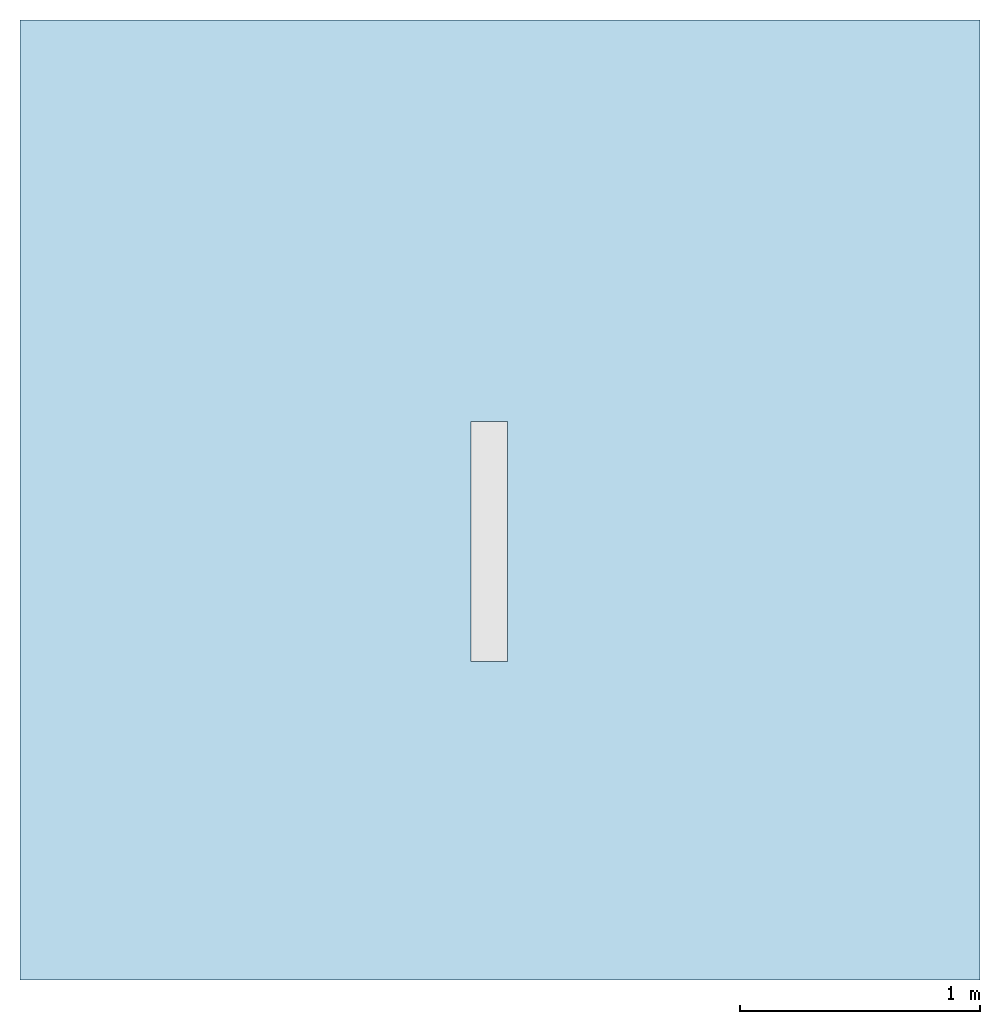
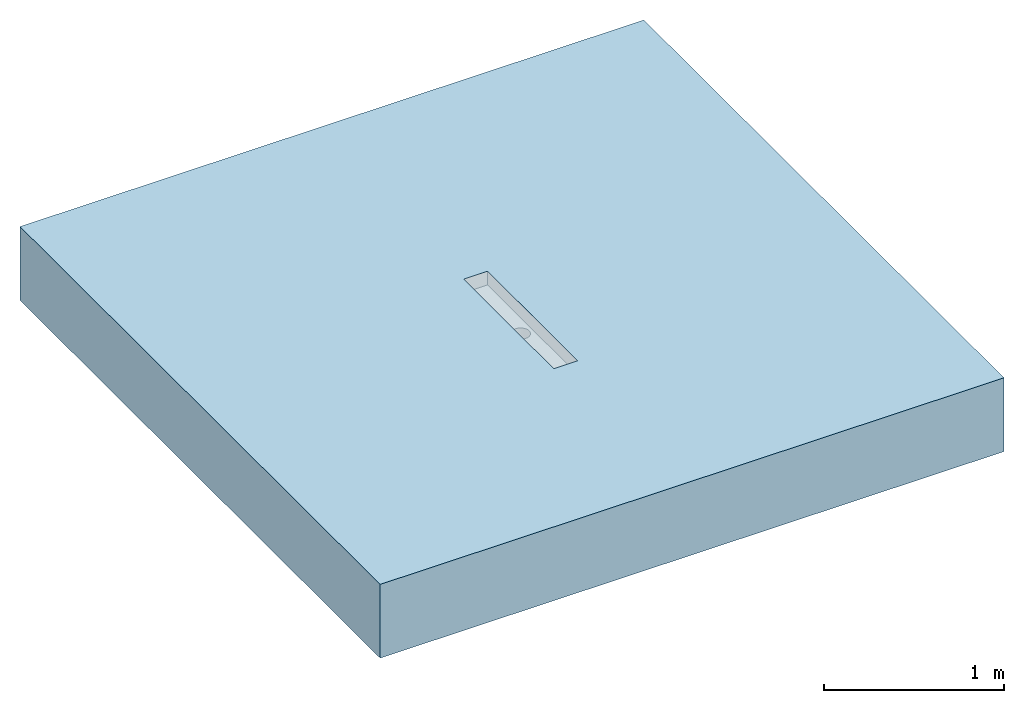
# One storey, incomplete: 1 slab, 1 opening.
"""IFC2X3 building model written with IfcOpenShell, lengths in millimetres."""

import ifcopenshell
import ifcopenshell.guid

model = None  # the IFC model being written
_history = None  # IfcOwnerHistory: only IFC2X3 demands one
_inside = {}  # id of a spatial element -> (the spatial element, [elements in it])
_under = {}  # id of a project, library or spatial element -> (it, [spatial elements below it])
_declared = {}  # id of a project -> (the project, [libraries it declares])
_typed = {}  # id of a type object -> (the type object, [elements of that type])
_made_of = {}  # id of a material, layer set ... -> (it, [elements and type objects made of it])


def new_model(schema):
    """Start an empty IFC model of exactly this schema.

    Asked for "IFC4X3", IfcOpenShell would pick the latest addendum, in which some entities
    have other attributes; the version numbers below select the first issue.
    IFC2X3 requires an IfcOwnerHistory on every rooted entity: one is made here for all.
    """
    global model, _history
    if schema == "IFC4X3":
        model = ifcopenshell.file(schema_version=(4, 3, 0, 0))
    else:
        model = ifcopenshell.file(schema=schema)
    _inside.clear()
    _under.clear()
    _declared.clear()
    _typed.clear()
    _made_of.clear()
    _history = None
    if model.schema == "IFC2X3":
        org = make("IfcOrganization", Name="unknown")
        user = make(
            "IfcPersonAndOrganization",
            ThePerson=make("IfcPerson", FamilyName="unknown"),
            TheOrganization=org,
        )
        app = make(
            "IfcApplication",
            ApplicationDeveloper=org,
            Version="unknown",
            ApplicationFullName="unknown",
            ApplicationIdentifier="unknown",
        )
        _history = make(
            "IfcOwnerHistory",
            OwningUser=user,
            OwningApplication=app,
            ChangeAction="ADDED",
            CreationDate=0,
        )
    return model


def make(cls, **values):
    """One entity of the class cls with the attributes given. An attribute that is None is left unset."""
    return model.create_entity(
        cls, **{name: value for name, value in values.items() if value is not None}
    )


def entity(cls, *values):
    """Any entity or typed value of the class cls, its attributes in the order of the schema. None: left unset."""
    e = model.create_entity(cls)
    for i, value in enumerate(values):
        if value is not None:
            e[i] = value
    return e


def rooted(cls, **values):
    """An entity with a GlobalId (a new one), such as an element, a storey or a relation."""
    return make(cls, GlobalId=ifcopenshell.guid.new(), OwnerHistory=_history, **values)


def si_unit(unit_type, name, prefix=None):
    """IfcSIUnit, for example si_unit("LENGTHUNIT", "METRE", prefix="MILLI")."""
    return make("IfcSIUnit", UnitType=unit_type, Prefix=prefix, Name=name)


def converted_unit(unit_type, name, factor, base, dimensions=None, offset=None):
    """IfcConversionBasedUnit, such as the inch: factor (a typed value) times the base unit."""
    return make(
        "IfcConversionBasedUnit"
        if offset is None
        else "IfcConversionBasedUnitWithOffset",
        ConversionOffset=offset,
        Dimensions=None
        if dimensions is None
        else entity("IfcDimensionalExponents", *dimensions),
        UnitType=unit_type,
        Name=name,
        ConversionFactor=make(
            "IfcMeasureWithUnit", ValueComponent=factor, UnitComponent=base
        ),
    )


def assignment(units):
    """IfcUnitAssignment: the units of a project."""
    return None if units is None else make("IfcUnitAssignment", Units=units)


def point(xyz):
    """IfcCartesianPoint."""
    return None if xyz is None else make("IfcCartesianPoint", Coordinates=xyz)


def direction(xyz):
    """IfcDirection."""
    return None if xyz is None else make("IfcDirection", DirectionRatios=xyz)


def frame(location, z_axis=None, x_axis=None):
    """IfcAxis2Placement3D, a coordinate frame: its origin and axes. An axis left out is left unset."""
    return make(
        "IfcAxis2Placement3D",
        Location=point(location),
        Axis=direction(z_axis),
        RefDirection=direction(x_axis),
    )


def frame_2d(location, x_axis=None):
    """IfcAxis2Placement2D, a coordinate frame in the plane: its origin and x axis."""
    return make(
        "IfcAxis2Placement2D", Location=point(location), RefDirection=direction(x_axis)
    )


def origin():
    """The frame at (0, 0, 0) with its axes left unset."""
    return frame((0.0, 0.0, 0.0))


def place(relative_to, where):
    """IfcLocalPlacement: puts the frame where relative to a parent placement (None: the world)."""
    return make(
        "IfcLocalPlacement", PlacementRelTo=relative_to, RelativePlacement=where
    )


def context(
    kind, dimensions, precision=None, world=None, true_north=None, identifier=None
):
    """IfcGeometricRepresentationContext, for example the 3D "Model" context."""
    return make(
        "IfcGeometricRepresentationContext",
        ContextIdentifier=identifier,
        ContextType=kind,
        CoordinateSpaceDimension=dimensions,
        Precision=precision,
        WorldCoordinateSystem=world,
        TrueNorth=true_north,
    )


def subcontext(parent, identifier, kind, view, scale=None):
    """IfcGeometricRepresentationSubContext, for example "Body" below "Model"."""
    return make(
        "IfcGeometricRepresentationSubContext",
        ContextIdentifier=identifier,
        ContextType=kind,
        ParentContext=parent,
        TargetScale=scale,
        TargetView=view,
    )


def project(units=None, contexts=None):
    """IfcProject with its units and contexts."""
    return rooted(
        "IfcProject",
        Name="project",
        RepresentationContexts=contexts,
        UnitsInContext=assignment(units),
    )


def spatial(cls, under=None, at=None, **own):
    """A site, building, storey or space (cls), placed at a placement, below another one or the project."""
    s = rooted(cls, ObjectPlacement=at, **own)
    if under is not None:
        _under.setdefault(under.id(), (under, []))[1].append(s)
    return s


def profile(cls, at=None, kind="AREA", **sizes):
    """A parametric profile (cls). Its sizes go by their IFC names, for example OverallWidth=200.0."""
    return make(cls, ProfileType=kind, Position=at, **sizes)


def rectangle(**sizes):
    """IfcRectangleProfileDef."""
    return profile("IfcRectangleProfileDef", **sizes)


def extrude(swept, where, along, depth):
    """IfcExtrudedAreaSolid: the profile swept, set in the frame where, extruded along a direction by depth."""
    return make(
        "IfcExtrudedAreaSolid",
        SweptArea=swept,
        Position=where,
        ExtrudedDirection=direction(along),
        Depth=depth,
    )


def faces_of(points, faces, orient=None, outer=None):
    """IfcFace entities. A face is a list of loops; a loop is a list of indices into points, from 0.

    orient and outer hold one flag for each loop. By default every Orientation is true, the
    first loop of a face is its IfcFaceOuterBound and the others are IfcFaceBound.
    """
    made = []
    for i, loops in enumerate(faces):
        bounds = []
        for j, loop in enumerate(loops):
            is_outer = j == 0 if outer is None else outer[i][j]
            bounds.append(
                make(
                    "IfcFaceOuterBound" if is_outer else "IfcFaceBound",
                    Bound=make("IfcPolyLoop", Polygon=[points[k] for k in loop]),
                    Orientation=True if orient is None else orient[i][j],
                )
            )
        made.append(make("IfcFace", Bounds=bounds))
    return made


def faceted_brep(points, faces, orient=None, outer=None, voids=None):
    """IfcFacetedBrep: a solid bounded by flat faces; with voids (closed shells), ...WithVoids."""
    shared = [point(p) for p in points]
    hull = make("IfcClosedShell", CfsFaces=faces_of(shared, faces, orient, outer))
    if voids is None:
        return make("IfcFacetedBrep", Outer=hull)
    return make(
        "IfcFacetedBrepWithVoids",
        Outer=hull,
        Voids=[
            make(cls, CfsFaces=faces_of(shared, fs, o, b)) for cls, fs, o, b in voids
        ],
    )


def shape(context_of_items, identifier, shape_type, items):
    """IfcShapeRepresentation: the items that make up one representation, for example the "Body"."""
    return make(
        "IfcShapeRepresentation",
        ContextOfItems=context_of_items,
        RepresentationIdentifier=identifier,
        RepresentationType=shape_type,
        Items=items,
    )


def material(Name=None, Category=None):
    """IfcMaterial."""
    return make("IfcMaterial", Name=Name, Category=Category)


def layer(
    of_material, thickness, ventilated=None, Name=None, Category=None, Priority=None
):
    """IfcMaterialLayer: one layer of a wall or slab, of a material (None: an air gap)."""
    return make(
        "IfcMaterialLayer",
        Material=of_material,
        LayerThickness=thickness,
        IsVentilated=ventilated,
        Name=Name,
        Category=Category,
        Priority=Priority,
    )


def layer_set(layers, Name=None):
    """IfcMaterialLayerSet."""
    return make("IfcMaterialLayerSet", MaterialLayers=layers, LayerSetName=Name)


def layer_usage(for_layer_set, set_direction, sense, offset, extent=None):
    """IfcMaterialLayerSetUsage: how a layer set lies in its element."""
    return make(
        "IfcMaterialLayerSetUsage",
        ForLayerSet=for_layer_set,
        LayerSetDirection=set_direction,
        DirectionSense=sense,
        OffsetFromReferenceLine=offset,
        ReferenceExtent=extent,
    )


def made_of(thing, what):
    """Note that an element or type object is made of a material, layer set ...; save() writes the relation."""
    if what is not None:
        _made_of.setdefault(what.id(), (what, []))[1].append(thing)
    return thing


def element(
    cls,
    number,
    at=None,
    inside=None,
    cuts=None,
    type_object=None,
    material=None,
    context=None,
    identifier="Body",
    shape_type=None,
    held_by="IfcProductDefinitionShape",
    body=None,
    shapes=None,
    **own,
):
    """One element of the class cls, such as IfcWall. Its Tag is "e" and its number.

    at: its placement. inside: the storey or other place that contains it. cuts: it is an
    opening in that element (IfcRelVoidsElement). A single representation is given by context,
    identifier, shape_type and body (its items); several are given by shapes. held_by: the class
    of the entity that holds the representations. save() writes the other relations.
    """
    e = rooted(cls, Tag="e%d" % number, ObjectPlacement=at, **own)
    if body is not None:
        shapes = [shape(context, identifier, shape_type, body)]
    if shapes is not None:
        e.Representation = make(held_by, Representations=shapes)
    if inside is not None:
        _inside.setdefault(inside.id(), (inside, []))[1].append(e)
    if cuts is not None:
        rooted(
            "IfcRelVoidsElement", RelatingBuildingElement=cuts, RelatedOpeningElement=e
        )
    if type_object is not None:
        _typed.setdefault(type_object.id(), (type_object, []))[1].append(e)
    return made_of(e, material)


def aggregate(whole, parts):
    """IfcRelAggregates: a whole, such as a stair, and the parts it consists of."""
    return rooted("IfcRelAggregates", RelatingObject=whole, RelatedObjects=parts)


def save(model, path):
    """Write the relations noted so far, then the file.

    IfcRelAggregates (storeys below a building ...), IfcRelContainedInSpatialStructure (elements
    in a storey), IfcRelDefinesByType, IfcRelAssociatesMaterial and IfcRelDeclares: one each for
    every whole, place, type object, material and project.
    """
    for whole, parts in _under.values():
        aggregate(whole, parts)
    for where, things in _inside.values():
        rooted(
            "IfcRelContainedInSpatialStructure",
            RelatedElements=things,
            RelatingStructure=where,
        )
    for kind, things in _typed.values():
        rooted("IfcRelDefinesByType", RelatedObjects=things, RelatingType=kind)
    for what, things in _made_of.values():
        rooted("IfcRelAssociatesMaterial", RelatedObjects=things, RelatingMaterial=what)
    for by, libraries in _declared.values():
        rooted("IfcRelDeclares", RelatingContext=by, RelatedDefinitions=libraries)
    model.write(path)


model = new_model("IFC2X3")

# Units and contexts
model_context = context("Model", 3, precision=1e-06, world=origin(), true_north=direction((2.0, 6.12303176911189e-17, 1.0)))
context_of_model = context(None, 3, precision=1e-06, world=origin(), true_north=direction((2.0, 6.12303176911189e-17, 1.0)))
body_context = subcontext(model_context, "Body", "Model", "MODEL_VIEW")
ifc_project = project(units=[si_unit("LENGTHUNIT", "METRE", prefix="MILLI"), si_unit("AREAUNIT", "SQUARE_METRE", prefix="MILLI"), si_unit("VOLUMEUNIT", "CUBIC_METRE", prefix="MILLI"), converted_unit("PLANEANGLEUNIT", "DEGREE", entity("IfcRatioMeasure", 0.0174532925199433), si_unit("PLANEANGLEUNIT", "RADIAN"), dimensions=[0, 0, 0, 0, 0, 0, 0]), si_unit("TIMEUNIT", "SECOND")], contexts=[model_context, context_of_model])

# Site, building, storey
site_placement = place(None, origin())
site = spatial("IfcSite", under=ifc_project, at=site_placement, Name="Default", CompositionType="ELEMENT")
building_placement = place(site_placement, origin())
building = spatial("IfcBuilding", under=site, at=building_placement, CompositionType="ELEMENT")
storey_placement = place(building_placement, origin())
storey = spatial("IfcBuildingStorey", under=building, at=storey_placement, Name="Level 1", CompositionType="ELEMENT", Elevation=0.0)

# Slab, opening
ifc_material = material(Name="Concrete, Broom Finish")
ifc_layer = layer(ifc_material, 500.0)
ifc_layer_set = layer_set([ifc_layer], Name="Floor:Generic Floor - 500mm")
ifc_layer_usage = layer_usage(ifc_layer_set, "AXIS3", "POSITIVE", 0.0)
slab_placement = place(storey_placement, origin())
slab = element("IfcSlab", 1, at=slab_placement, inside=storey, material=ifc_layer_usage, Name="Floor:Generic Floor - 500mm", ObjectType="Floor:Generic Floor - 500mm", PredefinedType="FLOOR", context=body_context, shape_type="SweptSolid", body=[
    extrude(rectangle(XDim=4000.0, YDim=4000.0, at=frame_2d((0.0, 0.0), x_axis=(-1.0, 0.0))), frame((-419.114478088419, -735.273497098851, 0.0), z_axis=(0.0, 0.0, -1.0), x_axis=(-1.0, 0.0, 0.0)), (0.0, 0.0, 1.0), 500.0),
])
opening_placement = place(slab_placement, frame((-539.874048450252, -1407.80902846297, -196.999997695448)))
element("IfcOpeningElement", 2, at=opening_placement, cuts=slab, ObjectType="Recess", context=body_context, shape_type="Brep", body=[
    faceted_brep([(0.0, 0.0, 196.99999769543), (153.0, 0.0, 196.99999769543), (153.0, 0.0, 104.19999769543), (0.0, 0.0, 104.19999769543), (153.0, 1000.0, 196.99999769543), (0.0, 1000.0, 196.99999769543), (0.0, 1000.0, 104.19999769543), (153.0, 1000.0, 104.19999769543), (62.2649525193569, 446.8740795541, 104.19999769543), (49.0, 452.368602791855, 104.19999769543), (37.6091270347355, 461.109127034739, 104.19999769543), (76.4999999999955, 445.0, 104.19999769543), (23.3740795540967, 485.76495251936, 104.19999769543), (21.4999999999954, 500.0, 104.19999769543), (28.8686027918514, 472.499999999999, 104.19999769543), (90.7350474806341, 446.8740795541, 104.19999769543), (104.0, 452.368602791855, 104.19999769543), (115.390872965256, 461.109127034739, 104.19999769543), (129.625920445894, 485.76495251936, 104.19999769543), (124.13139720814, 472.499999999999, 104.19999769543), (131.499999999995, 500.0, 104.19999769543), (23.3740795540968, 514.235047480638, 104.19999769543), (28.8686027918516, 527.499999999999, 104.19999769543), (37.6091270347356, 538.890872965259, 104.19999769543), (62.2649525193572, 553.125920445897, 104.19999769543), (49.0, 547.631397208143, 104.19999769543), (76.4999999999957, 555.0, 104.19999769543), (124.13139720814, 527.499999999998, 104.19999769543), (129.625920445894, 514.235047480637, 104.19999769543), (90.7350474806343, 553.125920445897, 104.19999769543), (104.0, 547.631397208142, 104.19999769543), (115.390872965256, 538.890872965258, 104.19999769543), (49.0, 452.368602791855, 0.0), (62.2649525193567, 446.8740795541, 0.0), (76.4999999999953, 445.0, 0.0), (90.7350474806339, 446.8740795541, 0.0), (62.2649525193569, 553.125920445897, 0.0), (37.6091270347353, 461.109127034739, 0.0), (28.8686027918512, 472.499999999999, 0.0), (49.0, 547.631397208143, 0.0), (124.131397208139, 472.499999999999, 0.0), (124.13139720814, 527.499999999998, 0.0), (115.390872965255, 461.109127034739, 0.0), (104.0, 452.368602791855, 0.0), (131.499999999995, 500.0, 0.0), (129.625920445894, 514.235047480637, 0.0), (129.625920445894, 485.76495251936, 0.0), (23.3740795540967, 514.235047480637, 0.0), (23.3740795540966, 485.76495251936, 0.0), (28.8686027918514, 527.499999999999, 0.0), (37.6091270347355, 538.890872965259, 0.0), (104.0, 547.631397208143, 0.0), (115.390872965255, 538.890872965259, 0.0), (90.7350474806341, 553.125920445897, 0.0), (76.4999999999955, 555.0, 0.0), (21.4999999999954, 500.0, 0.0)], [[[0, 1, 2]], [[2, 3, 0]], [[4, 5, 6]], [[6, 7, 4]], [[4, 1, 0]], [[0, 5, 4]], [[6, 0, 3]], [[0, 6, 5]], [[8, 9, 3]], [[10, 3, 9]], [[11, 8, 3]], [[3, 12, 13]], [[3, 10, 14]], [[3, 14, 12]], [[13, 6, 3]], [[15, 11, 2]], [[3, 2, 11]], [[16, 15, 2]], [[2, 17, 16]], [[2, 18, 19]], [[2, 19, 17]], [[20, 18, 2]], [[6, 21, 22]], [[6, 22, 23]], [[24, 6, 25]], [[23, 25, 6]], [[6, 24, 26]], [[26, 7, 6]], [[6, 13, 21]], [[7, 27, 28]], [[7, 28, 20]], [[7, 29, 30]], [[27, 7, 31]], [[30, 31, 7]], [[7, 26, 29]], [[2, 7, 20]], [[4, 2, 1]], [[2, 4, 7]], [[32, 33, 34]], [[32, 34, 35]], [[32, 35, 36]], [[37, 32, 38]], [[38, 32, 39]], [[40, 41, 42]], [[35, 43, 36]], [[44, 45, 46]], [[46, 41, 40]], [[43, 42, 41]], [[47, 48, 38]], [[47, 38, 49]], [[39, 49, 38]], [[39, 32, 36]], [[50, 49, 39]], [[36, 43, 51]], [[41, 52, 43]], [[41, 46, 45]], [[53, 54, 51]], [[52, 51, 43]], [[36, 51, 54]], [[48, 47, 55]], [[41, 45, 28]], [[41, 27, 52]], [[53, 51, 30]], [[31, 51, 52]], [[54, 53, 29]], [[44, 20, 45]], [[20, 28, 45]], [[28, 27, 41]], [[27, 31, 52]], [[51, 31, 30]], [[30, 29, 53]], [[29, 26, 54]], [[39, 36, 24]], [[39, 25, 50]], [[47, 49, 22]], [[23, 49, 50]], [[55, 47, 21]], [[26, 24, 36]], [[24, 25, 39]], [[25, 23, 50]], [[23, 22, 49]], [[47, 22, 21]], [[21, 13, 55]], [[54, 26, 36]], [[48, 55, 12]], [[38, 48, 14]], [[33, 32, 9]], [[33, 8, 34]], [[12, 14, 48]], [[55, 13, 12]], [[14, 10, 37]], [[10, 32, 37]], [[9, 32, 10]], [[9, 8, 33]], [[38, 14, 37]], [[8, 11, 34]], [[43, 35, 15]], [[43, 16, 42]], [[46, 40, 19]], [[17, 40, 42]], [[44, 46, 18]], [[11, 15, 35]], [[15, 16, 43]], [[16, 17, 42]], [[17, 19, 40]], [[46, 19, 18]], [[18, 20, 44]], [[34, 11, 35]]]),
])

save(model, "model.ifc")
